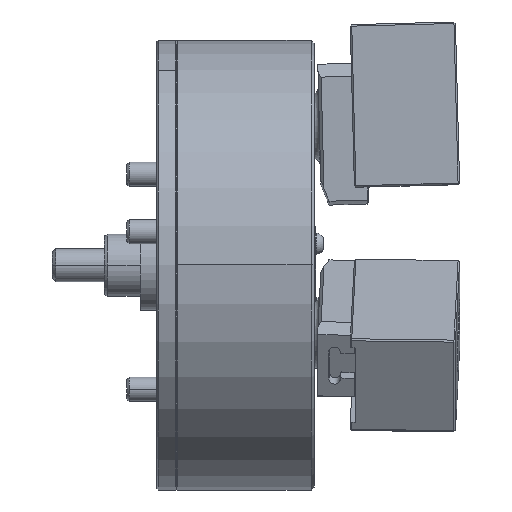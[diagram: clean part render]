
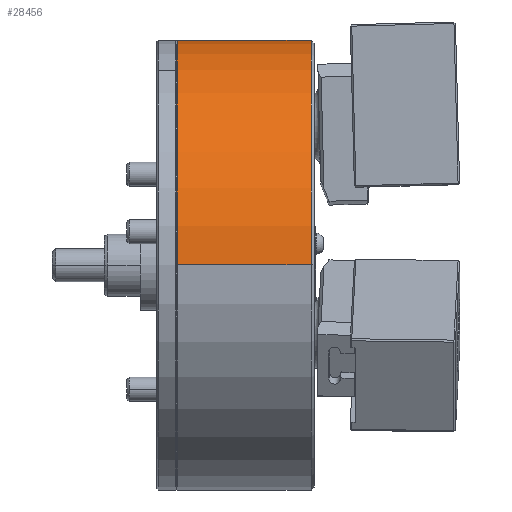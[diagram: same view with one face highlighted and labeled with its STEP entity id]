
A CAD part, top view. The second image highlights one B-rep face of the part: STEP entity #28456.
In plain terms, the highlighted cylindrical face has radius 150 mm (diameter 300 mm), a partial arc.
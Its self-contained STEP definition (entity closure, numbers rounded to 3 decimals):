
#884 = DIRECTION ( 'NONE',  ( 1., 0., 0. ) ) ;
#3152 = CARTESIAN_POINT ( 'NONE',  ( -91.2, 0., 150. ) ) ;
#4869 = DIRECTION ( 'NONE',  ( 1., 0., 0. ) ) ;
#5056 = CARTESIAN_POINT ( 'NONE',  ( 63.843, 0., -150. ) ) ;
#5754 = DIRECTION ( 'NONE',  ( 0., 0., -1. ) ) ;
#6664 = AXIS2_PLACEMENT_3D ( 'NONE', #31623, #24504, #5754 ) ;
#6683 = EDGE_CURVE ( 'NONE', #26784, #41599, #44389, .T. ) ;
#7467 = DIRECTION ( 'NONE',  ( 1., 0., 0. ) ) ;
#8625 = LINE ( 'NONE', #5056, #44718 ) ;
#9680 = VERTEX_POINT ( 'NONE', #43965 ) ;
#9941 = EDGE_CURVE ( 'NONE', #26784, #9680, #8625, .T. ) ;
#10003 = VECTOR ( 'NONE', #4869, 1000. ) ;
#15214 = ORIENTED_EDGE ( 'NONE', *, *, #6683, .T. ) ;
#16709 = EDGE_CURVE ( 'NONE', #9680, #30688, #40024, .T. ) ;
#18587 = ORIENTED_EDGE ( 'NONE', *, *, #22790, .T. ) ;
#20060 = CARTESIAN_POINT ( 'NONE',  ( 63.843, 0., 150. ) ) ;
#22263 = FACE_OUTER_BOUND ( 'NONE', #28803, .T. ) ;
#22790 = EDGE_CURVE ( 'NONE', #41599, #30688, #41211, .T. ) ;
#24088 = CARTESIAN_POINT ( 'NONE',  ( -2., 0., 150. ) ) ;
#24504 = DIRECTION ( 'NONE',  ( 1., 0., 0. ) ) ;
#26305 = CARTESIAN_POINT ( 'NONE',  ( 63.843, 0., 0. ) ) ;
#26551 = AXIS2_PLACEMENT_3D ( 'NONE', #26305, #884, #37219 ) ;
#26784 = VERTEX_POINT ( 'NONE', #26789 ) ;
#26789 = CARTESIAN_POINT ( 'NONE',  ( -91.2, 0., -150. ) ) ;
#28456 = ADVANCED_FACE ( 'NONE', ( #22263 ), #28917, .T. ) ;
#28803 = EDGE_LOOP ( 'NONE', ( #15214, #18587, #40831, #40341 ) ) ;
#28917 = CYLINDRICAL_SURFACE ( 'NONE', #26551, 150. ) ;
#30688 = VERTEX_POINT ( 'NONE', #24088 ) ;
#31623 = CARTESIAN_POINT ( 'NONE',  ( -2., 0., 0. ) ) ;
#33789 = AXIS2_PLACEMENT_3D ( 'NONE', #46888, #7467, #39509 ) ;
#37219 = DIRECTION ( 'NONE',  ( 0., 0., -1. ) ) ;
#39509 = DIRECTION ( 'NONE',  ( 0., 0., -1. ) ) ;
#40024 = CIRCLE ( 'NONE', #6664, 150. ) ;
#40341 = ORIENTED_EDGE ( 'NONE', *, *, #9941, .F. ) ;
#40831 = ORIENTED_EDGE ( 'NONE', *, *, #16709, .F. ) ;
#41211 = LINE ( 'NONE', #20060, #10003 ) ;
#41599 = VERTEX_POINT ( 'NONE', #3152 ) ;
#43965 = CARTESIAN_POINT ( 'NONE',  ( -2., 0., -150. ) ) ;
#44389 = CIRCLE ( 'NONE', #33789, 150. ) ;
#44718 = VECTOR ( 'NONE', #46130, 1000. ) ;
#46130 = DIRECTION ( 'NONE',  ( 1., 0., 0. ) ) ;
#46888 = CARTESIAN_POINT ( 'NONE',  ( -91.2, 0., 0. ) ) ;
